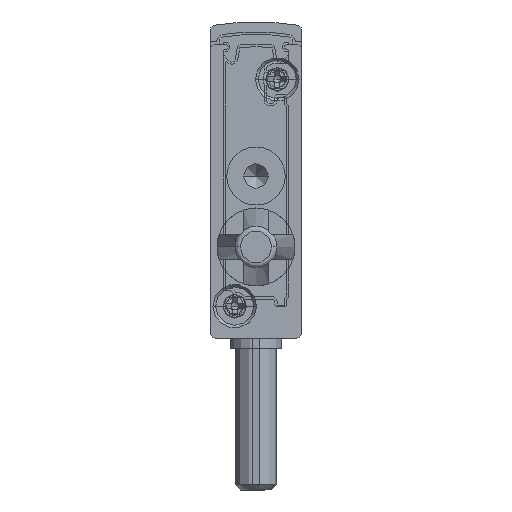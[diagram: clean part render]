
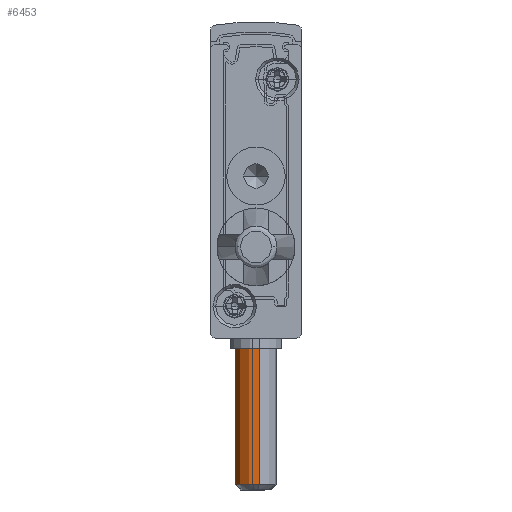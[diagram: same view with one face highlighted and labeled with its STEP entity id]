
A CAD part, front view. The second image highlights one B-rep face of the part: STEP entity #6453.
In plain terms, the highlighted cylindrical face has radius 2 mm (diameter 4 mm), a partial arc.
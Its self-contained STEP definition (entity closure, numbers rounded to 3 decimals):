
#1297 = ORIENTED_EDGE ( 'NONE', *, *, #15479, .F. ) ;
#1951 = CARTESIAN_POINT ( 'NONE',  ( -4.801, 2381.477, -15. ) ) ;
#3589 = CARTESIAN_POINT ( 'NONE',  ( -4.801, 2381.477, -1. ) ) ;
#3965 = DIRECTION ( 'NONE',  ( 0.15, -0.989, 0. ) ) ;
#4745 = DIRECTION ( 'NONE',  ( 0., 0., 1. ) ) ;
#5030 = LINE ( 'NONE', #1951, #5454 ) ;
#5282 = EDGE_CURVE ( 'NONE', #15953, #19473, #22687, .T. ) ;
#5302 = CYLINDRICAL_SURFACE ( 'NONE', #26938, 2. ) ;
#5454 = VECTOR ( 'NONE', #4745, 1000. ) ;
#6453 = ADVANCED_FACE ( 'NONE', ( #15210 ), #5302, .T. ) ;
#7931 = AXIS2_PLACEMENT_3D ( 'NONE', #19785, #11923, #3965 ) ;
#8188 = EDGE_CURVE ( 'NONE', #19473, #32865, #24254, .T. ) ;
#8695 = DIRECTION ( 'NONE',  ( 0., 0., 1. ) ) ;
#9106 = ORIENTED_EDGE ( 'NONE', *, *, #19341, .T. ) ;
#11923 = DIRECTION ( 'NONE',  ( 0., 0., -1. ) ) ;
#12536 = EDGE_LOOP ( 'NONE', ( #13417, #21706, #9106, #1297 ) ) ;
#13417 = ORIENTED_EDGE ( 'NONE', *, *, #5282, .T. ) ;
#14286 = VECTOR ( 'NONE', #8695, 1000. ) ;
#14965 = CARTESIAN_POINT ( 'NONE',  ( -4.801, 2381.477, -14.5 ) ) ;
#15210 = FACE_OUTER_BOUND ( 'NONE', #12536, .T. ) ;
#15479 = EDGE_CURVE ( 'NONE', #15953, #21824, #5030, .T. ) ;
#15953 = VERTEX_POINT ( 'NONE', #14965 ) ;
#18895 = CARTESIAN_POINT ( 'NONE',  ( -4.5, 2379.5, -14.5 ) ) ;
#19341 = EDGE_CURVE ( 'NONE', #32865, #21824, #28671, .T. ) ;
#19473 = VERTEX_POINT ( 'NONE', #25681 ) ;
#19785 = CARTESIAN_POINT ( 'NONE',  ( -4.5, 2379.5, -1. ) ) ;
#21706 = ORIENTED_EDGE ( 'NONE', *, *, #8188, .T. ) ;
#21824 = VERTEX_POINT ( 'NONE', #3589 ) ;
#21927 = DIRECTION ( 'NONE',  ( 0., 0., 1. ) ) ;
#22687 = CIRCLE ( 'NONE', #32648, 2. ) ;
#24254 = LINE ( 'NONE', #24424, #14286 ) ;
#24424 = CARTESIAN_POINT ( 'NONE',  ( -4.199, 2377.523, -15. ) ) ;
#25410 = DIRECTION ( 'NONE',  ( -0.15, 0.989, 0. ) ) ;
#25681 = CARTESIAN_POINT ( 'NONE',  ( -4.199, 2377.523, -14.5 ) ) ;
#26135 = CARTESIAN_POINT ( 'NONE',  ( -4.199, 2377.523, -1. ) ) ;
#26775 = DIRECTION ( 'NONE',  ( 0.15, -0.989, 0. ) ) ;
#26938 = AXIS2_PLACEMENT_3D ( 'NONE', #27387, #29919, #25410 ) ;
#27387 = CARTESIAN_POINT ( 'NONE',  ( -4.5, 2379.5, -15. ) ) ;
#28671 = CIRCLE ( 'NONE', #7931, 2. ) ;
#29919 = DIRECTION ( 'NONE',  ( 0., 0., 1. ) ) ;
#32648 = AXIS2_PLACEMENT_3D ( 'NONE', #18895, #21927, #26775 ) ;
#32865 = VERTEX_POINT ( 'NONE', #26135 ) ;
